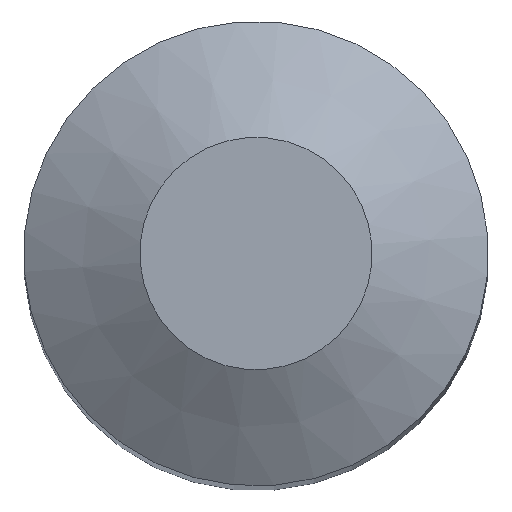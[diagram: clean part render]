
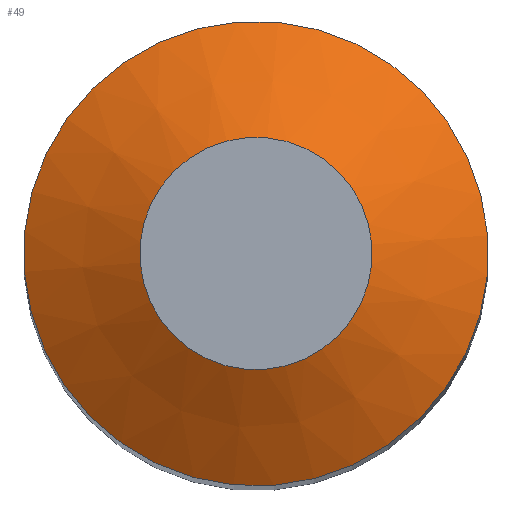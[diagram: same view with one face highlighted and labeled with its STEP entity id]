
A CAD part, top view. The second image highlights one B-rep face of the part: STEP entity #49.
In plain terms, the highlighted conical face has half-angle 60 degrees and reference radius 3 mm.
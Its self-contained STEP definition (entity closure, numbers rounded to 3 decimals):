
#49=ADVANCED_FACE('',(#66,#67),#57,.T.);
#57=CONICAL_SURFACE('',#151,3.,60.);
#66=FACE_BOUND('',#78,.T.);
#67=FACE_BOUND('',#79,.T.);
#78=EDGE_LOOP('',(#92));
#79=EDGE_LOOP('',(#93));
#92=ORIENTED_EDGE('',*,*,#112,.F.);
#93=ORIENTED_EDGE('',*,*,#111,.T.);
#103=VERTEX_POINT('',#207);
#104=VERTEX_POINT('',#210);
#111=EDGE_CURVE('',#103,#103,#118,.T.);
#112=EDGE_CURVE('',#104,#104,#119,.T.);
#118=CIRCLE('',#148,3.);
#119=CIRCLE('',#150,1.5);
#148=AXIS2_PLACEMENT_3D('',#206,#173,#174);
#150=AXIS2_PLACEMENT_3D('',#209,#177,#178);
#151=AXIS2_PLACEMENT_3D('',#211,#179,#180);
#173=DIRECTION('',(0.,0.,1.));
#174=DIRECTION('',(0.43,0.903,0.));
#177=DIRECTION('',(0.,0.,1.));
#178=DIRECTION('',(0.43,0.903,0.));
#179=DIRECTION('',(0.,0.,-1.));
#180=DIRECTION('',(-0.43,-0.903,0.));
#206=CARTESIAN_POINT('',(0.,0.,-0.866));
#207=CARTESIAN_POINT('',(1.291,2.708,-0.866));
#209=CARTESIAN_POINT('',(0.,0.,0.));
#210=CARTESIAN_POINT('',(0.646,1.354,0.));
#211=CARTESIAN_POINT('',(0.,0.,-0.866));
